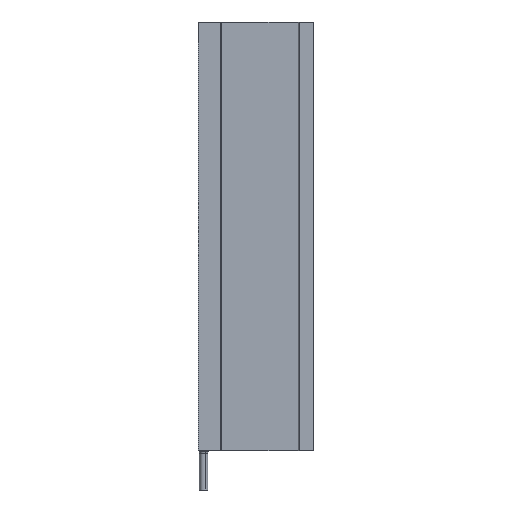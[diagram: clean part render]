
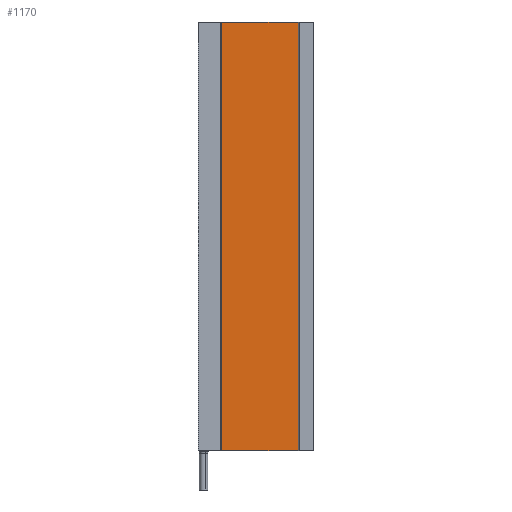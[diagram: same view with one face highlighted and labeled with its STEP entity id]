
A CAD part, left-side view. The second image highlights one B-rep face of the part: STEP entity #1170.
In plain terms, the highlighted planar face has unit normal (-1, 0, 0).
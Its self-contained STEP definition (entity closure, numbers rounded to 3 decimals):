
#103 = LINE ( 'NONE', #2424, #5299 ) ;
#138 = LINE ( 'NONE', #5510, #5331 ) ;
#433 = ORIENTED_EDGE ( 'NONE', *, *, #548, .F. ) ;
#548 = EDGE_CURVE ( 'NONE', #1620, #4017, #138, .T. ) ;
#867 = ORIENTED_EDGE ( 'NONE', *, *, #3046, .T. ) ;
#1116 = VERTEX_POINT ( 'NONE', #1949 ) ;
#1170 = ADVANCED_FACE ( 'NONE', ( #2421 ), #2928, .F. ) ;
#1307 = DIRECTION ( 'NONE',  ( 0., 0., 1. ) ) ;
#1552 = VECTOR ( 'NONE', #1307, 1000. ) ;
#1554 = EDGE_CURVE ( 'NONE', #1116, #5168, #2884, .T. ) ;
#1620 = VERTEX_POINT ( 'NONE', #5336 ) ;
#1949 = CARTESIAN_POINT ( 'NONE',  ( 66.6, 300.204, 280.517 ) ) ;
#2093 = VECTOR ( 'NONE', #2311, 1000. ) ;
#2311 = DIRECTION ( 'NONE',  ( 0., -1., 0. ) ) ;
#2421 = FACE_OUTER_BOUND ( 'NONE', #3935, .T. ) ;
#2424 = CARTESIAN_POINT ( 'NONE',  ( 66.6, 298.704, 280.517 ) ) ;
#2884 = LINE ( 'NONE', #5826, #1552 ) ;
#2928 = PLANE ( 'NONE',  #3505 ) ;
#3046 = EDGE_CURVE ( 'NONE', #1116, #4017, #103, .T. ) ;
#3505 = AXIS2_PLACEMENT_3D ( 'NONE', #5591, #5016, #5077 ) ;
#3736 = CARTESIAN_POINT ( 'NONE',  ( 66.6, 298.704, 665.517 ) ) ;
#3935 = EDGE_LOOP ( 'NONE', ( #867, #433, #6321, #4332 ) ) ;
#4017 = VERTEX_POINT ( 'NONE', #4770 ) ;
#4167 = EDGE_CURVE ( 'NONE', #5168, #1620, #6204, .T. ) ;
#4332 = ORIENTED_EDGE ( 'NONE', *, *, #1554, .F. ) ;
#4410 = DIRECTION ( 'NONE',  ( 0., -1., 0. ) ) ;
#4770 = CARTESIAN_POINT ( 'NONE',  ( 66.6, 231.204, 280.517 ) ) ;
#4927 = DIRECTION ( 'NONE',  ( 0., 0., -1. ) ) ;
#5016 = DIRECTION ( 'NONE',  ( 1., 0., 0. ) ) ;
#5077 = DIRECTION ( 'NONE',  ( 0., 0., -1. ) ) ;
#5168 = VERTEX_POINT ( 'NONE', #5182 ) ;
#5182 = CARTESIAN_POINT ( 'NONE',  ( 66.6, 300.204, 665.517 ) ) ;
#5299 = VECTOR ( 'NONE', #4410, 1000. ) ;
#5331 = VECTOR ( 'NONE', #4927, 1000. ) ;
#5336 = CARTESIAN_POINT ( 'NONE',  ( 66.6, 231.204, 665.517 ) ) ;
#5510 = CARTESIAN_POINT ( 'NONE',  ( 66.6, 231.204, 665.517 ) ) ;
#5591 = CARTESIAN_POINT ( 'NONE',  ( 66.6, 298.704, 665.517 ) ) ;
#5826 = CARTESIAN_POINT ( 'NONE',  ( 66.6, 300.204, 280.517 ) ) ;
#6204 = LINE ( 'NONE', #3736, #2093 ) ;
#6321 = ORIENTED_EDGE ( 'NONE', *, *, #4167, .F. ) ;
